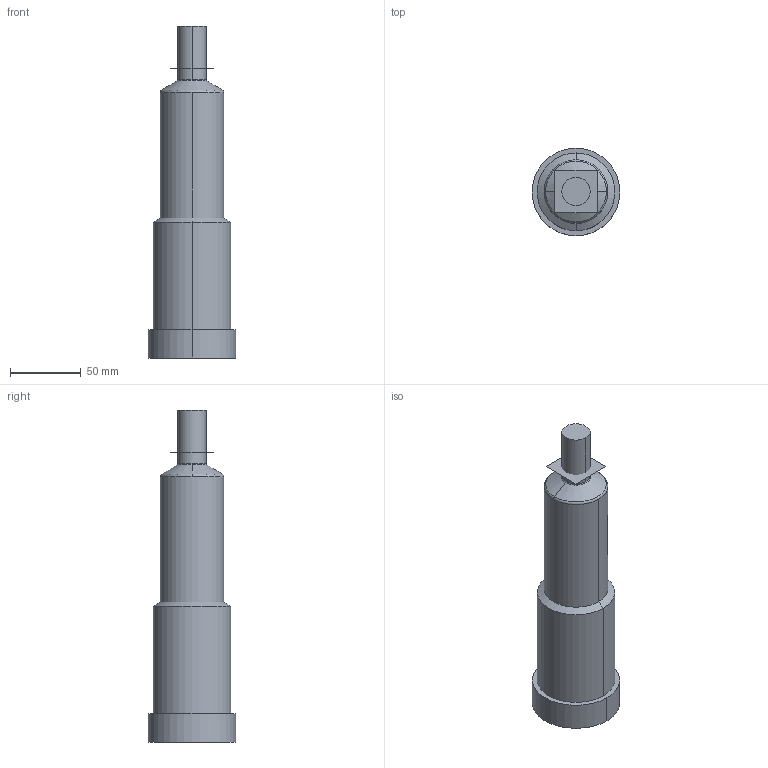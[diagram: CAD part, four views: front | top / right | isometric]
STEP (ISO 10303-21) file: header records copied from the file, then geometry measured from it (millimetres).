
FILE_DESCRIPTION (( 'STEP AP214' ), '1' );
FILE_NAME ('16EX22-03-205-##P.STEP', '2022-03-09T13:41:07', ( '' ), ( '' ), 'SwSTEP 2.0', 'SolidWorks 2018', '' );
FILE_SCHEMA (( 'AUTOMOTIVE_DESIGN' ));
Length unit declared in the file: millimetre
Products named in the file (3): cutout_16EX22-03-205-##P; nozzle_16EX22-03-205-##P; 16EX22-03-205-##P
Assembly tree (2 placements, depth 2):
  16EX22-03-205-##P
    nozzle_16EX22-03-205-##P
    cutout_16EX22-03-205-##P
Bounding box: 62 x 62 x 235 mm (x, y, z)
Volume: 408639.7 mm3; surface area: 119771.5 mm2
Topology: 1 solids, 4 shells, 402 faces, 1090 edges, 665 vertices
Faces by surface type: plane 150, cylinder 149, torus 57, cone 42, sphere 2, bspline 2
Entity records: 13757 total; most frequent: CARTESIAN_POINT 3277, DIRECTION 2316, ORIENTED_EDGE 2168, EDGE_CURVE 1086, AXIS2_PLACEMENT_3D 910, VERTEX_POINT 663, CIRCLE 504, LINE 496
